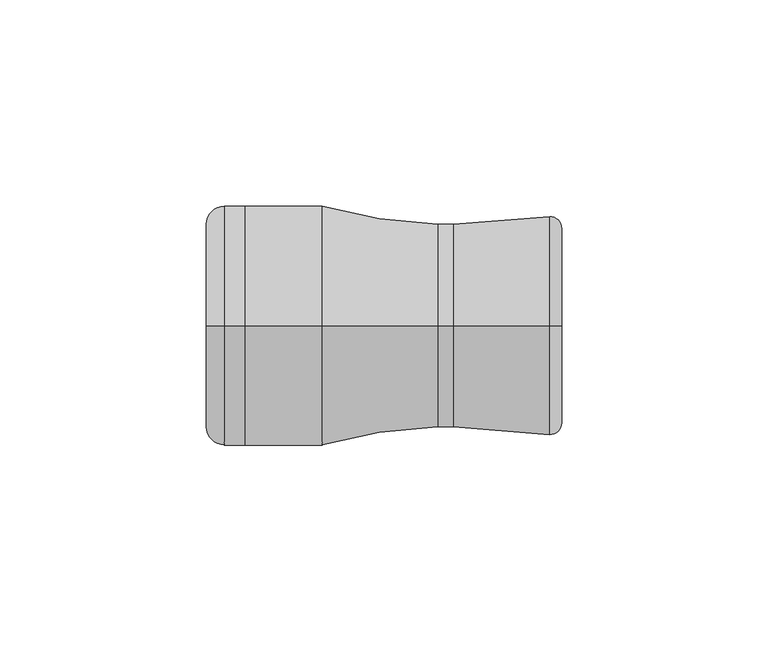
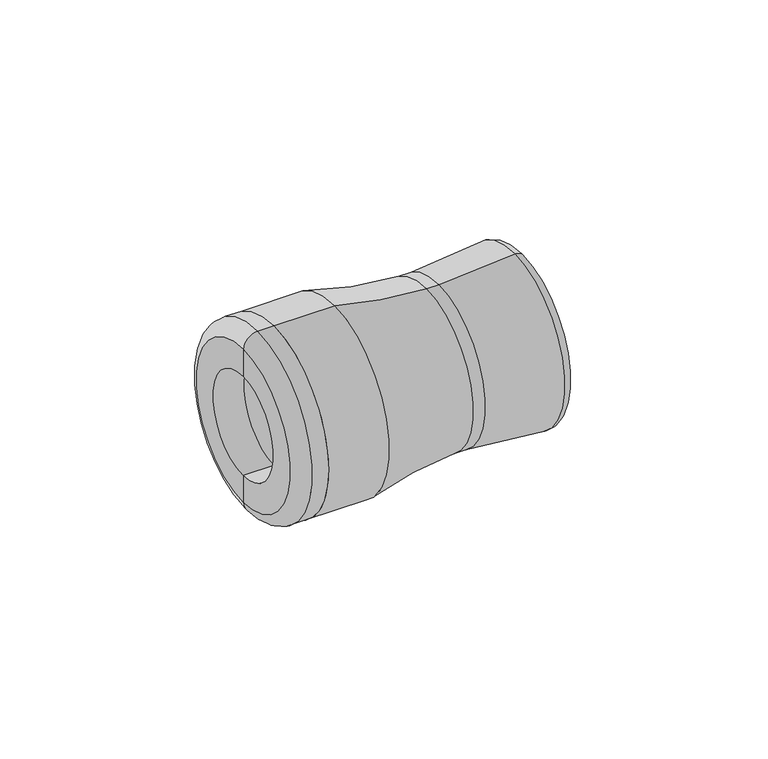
"""IFC4 building model written with IfcOpenShell, lengths in millimetres: pipe fitting geometry, Plumbing_Pipe-Fittings_Plasson_Female-Adaptor-with-Threaded-G-Brass-Offtake_1073G : Plumbing_Pipe-Fittings_Plasson_Female-Adaptor-with-Threaded-G-Brass-Offtake_1073G."""

from ifc_helpers import new_model, si_unit, point, frame, origin, place, context, project, spatial, polyline, circle_curve, ellipse_curve, trimmed, source, transform, mapped, element, save
from ifc_brep_helpers import plane_surface, cylinder_surface, revolved_surface, advanced_brep


def pipe_fitting_30391b72(model_context):
    return source(origin(), model_context, "Body", "AdvancedBrep", [
        advanced_brep(
        [(0.8817136, 0.0, -14.05), (0.8817136, 0.0, 14.05), (0.8817136, 0.0, 12.05), (0.8817136, 0.0, -12.05), (-11.1182864, 0.0, -14.05), (-11.1182864, 0.0, 14.05), (-11.1182864, 0.0, -12.05), (-11.1182864, 0.0, 12.05)],
        [
            (0, 1, circle_curve(frame((0.8817136, 0.0, 0.0), z_axis=(1.0, 0.0, 0.0), x_axis=(0.0, 0.0, 1.0)), 14.05)),
            (1, 2),
            (2, 3, circle_curve(frame((0.8817136, 0.0, 0.0), z_axis=(-1.0, 0.0, 0.0), x_axis=(0.0, 0.0, 1.0)), 12.05)),
            (3, 0),
            (1, 0, circle_curve(frame((0.8817136, 0.0, 0.0), z_axis=(1.0, 0.0, 0.0), x_axis=(0.0, 0.0, 1.0)), 14.05)),
            (3, 2, circle_curve(frame((0.8817136, 0.0, 0.0), z_axis=(-1.0, 0.0, 0.0), x_axis=(0.0, 0.0, 1.0)), 12.05)),
            (4, 5, circle_curve(frame((-11.1182864, 0.0, 0.0), z_axis=(1.0, 0.0, 0.0), x_axis=(0.0, 0.0, 1.0)), 14.05)),
            (5, 1),
            (0, 4),
            (5, 4, circle_curve(frame((-11.1182864, 0.0, 0.0), z_axis=(1.0, 0.0, 0.0), x_axis=(0.0, 0.0, 1.0)), 14.05)),
            (6, 7, circle_curve(frame((-11.1182864, 0.0, 0.0), z_axis=(1.0, 0.0, 0.0), x_axis=(0.0, 0.0, 1.0)), 12.05)),
            (7, 5),
            (4, 6),
            (7, 6, circle_curve(frame((-11.1182864, 0.0, 0.0), z_axis=(1.0, 0.0, 0.0), x_axis=(0.0, 0.0, 1.0)), 12.05)),
            (2, 7),
            (6, 3),
        ],
        [
            plane_surface(frame((0.8817136, 0.0, 0.0), z_axis=(1.0, 0.0, 0.0), x_axis=(0.0, 0.0, 1.0))),
            cylinder_surface(frame((-4.784953, 0.0, 0.0), z_axis=(-1.0, 0.0, 0.0), x_axis=(0.0, 0.0, 1.0)), 14.05),
            plane_surface(frame((-11.1182864, 0.0, 0.0), z_axis=(-1.0, 0.0, 0.0), x_axis=(0.0, 0.0, 1.0))),
            revolved_surface(polyline([(-11.1182864, 0.0, 12.05), (0.8817136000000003, 0.0, 12.05)]), (-4.784953, 0.0, 0.0), (-1.0, 0.0, 0.0)),
        ],
        [
            (0, [[1, 2, 3, 4]]),
            (0, [[5, -4, 6, -2]]),
            (1, [[7, 8, -1, 9]]),
            (1, [[10, -9, -5, -8]]),
            (2, [[11, 12, -7, 13]]),
            (2, [[14, -13, -10, -12]]),
            (3, [[-3, 15, -11, 16]]),
            (3, [[-6, -16, -14, -15]]),
        ],
    ),
        advanced_brep(
        [(-75.784953, 0.0, -16.0), (-75.784953, 0.0, 16.0), (-85.1182864, 0.0, 16.0), (-85.1182864, 0.0, -16.0), (-85.1182864, 0.0, 24.6666667), (-85.1182864, 0.0, -24.6666667), (-80.784953, 0.0, 29.0), (-80.784953, 0.0, -29.0), (-75.784953, 0.0, 29.0), (-75.784953, 0.0, -29.0)],
        [
            (0, 1, circle_curve(frame((-75.784953, 0.0, 0.0), z_axis=(1.0, 0.0, 0.0), x_axis=(0.0, 0.0, 1.0)), 16.0)),
            (1, 2),
            (2, 3, circle_curve(frame((-85.1182864, 0.0, 0.0), z_axis=(-1.0, 0.0, 0.0), x_axis=(0.0, 0.0, 1.0)), 16.0)),
            (3, 0),
            (1, 0, circle_curve(frame((-75.784953, 0.0, 0.0), z_axis=(1.0, 0.0, 0.0), x_axis=(0.0, 0.0, 1.0)), 16.0)),
            (3, 2, circle_curve(frame((-85.1182864, 0.0, 0.0), z_axis=(-1.0, 0.0, 0.0), x_axis=(0.0, 0.0, 1.0)), 16.0)),
            (2, 4),
            (4, 5, circle_curve(frame((-85.1182864, 0.0, 0.0), z_axis=(-1.0, 0.0, 0.0), x_axis=(0.0, 0.0, 1.0)), 24.6666667)),
            (5, 3),
            (5, 4, circle_curve(frame((-85.1182864, 0.0, 0.0), z_axis=(-1.0, 0.0, 0.0), x_axis=(0.0, 0.0, 1.0)), 24.6666667)),
            (4, 6, circle_curve(frame((-80.784953, 0.0, 24.6666667), z_axis=(0.0, 1.0, 0.0), x_axis=(-1.0, 0.0, 0.0)), 4.3333333)),
            (6, 7, circle_curve(frame((-80.784953, 0.0, 0.0), z_axis=(-1.0, 0.0, 0.0), x_axis=(0.0, 0.0, 1.0)), 29.0)),
            (7, 5, circle_curve(frame((-80.784953, 0.0, -24.6666667), z_axis=(0.0, 1.0, 0.0), x_axis=(-1.0, 0.0, 0.0)), 4.3333333)),
            (7, 6, circle_curve(frame((-80.784953, 0.0, 0.0), z_axis=(-1.0, 0.0, 0.0), x_axis=(0.0, 0.0, 1.0)), 29.0)),
            (6, 8),
            (8, 9, circle_curve(frame((-75.784953, 0.0, 0.0), z_axis=(-1.0, 0.0, 0.0), x_axis=(0.0, 0.0, 1.0)), 29.0)),
            (9, 7),
            (9, 8, circle_curve(frame((-75.784953, 0.0, 0.0), z_axis=(-1.0, 0.0, 0.0), x_axis=(0.0, 0.0, 1.0)), 29.0)),
            (8, 1),
            (0, 9),
        ],
        [
            revolved_surface(polyline([(-85.1182864, 0.0, 16.0), (-75.784953, 0.0, 16.0)]), (-61.5654501, 0.0, 0.0), (-1.0, 0.0, 0.0)),
            plane_surface(frame((-85.1182864, 0.0, 0.0), z_axis=(-1.0, 0.0, 0.0), x_axis=(0.0, 0.0, 1.0))),
            revolved_surface(trimmed(ellipse_curve(frame((-80.784953, 0.0, 24.6666667), z_axis=(0.0, -1.0, 0.0), x_axis=(-1.0, 0.0, 0.0)), 4.3333333, 4.3333333), [point((-80.784953, 0.0, 29.0))], [point((-85.1182864, 0.0, 24.6666667))], True, "CARTESIAN"), (-61.5654501, 0.0, 0.0), (-1.0, 0.0, 0.0)),
            cylinder_surface(frame((-61.5654501, 0.0, 0.0), z_axis=(-1.0, 0.0, 0.0), x_axis=(0.0, 0.0, 1.0)), 29.0),
            plane_surface(frame((-75.784953, 0.0, 0.0), z_axis=(1.0, 0.0, 0.0), x_axis=(0.0, 0.0, 1.0))),
        ],
        [
            (0, [[1, 2, 3, 4]]),
            (0, [[5, -4, 6, -2]]),
            (1, [[-3, 7, 8, 9]]),
            (1, [[-6, -9, 10, -7]]),
            (2, [[-8, 11, 12, 13]]),
            (2, [[-10, -13, 14, -11]]),
            (3, [[-12, 15, 16, 17]]),
            (3, [[-14, -17, 18, -15]]),
            (4, [[-16, 19, -1, 20]]),
            (4, [[-18, -20, -5, -19]]),
        ],
    ),
        advanced_brep(
        [(-57.1182864, 0.0, -29.0), (-57.1182864, 0.0, 29.0), (-29.1182864, 0.0, 24.6666667), (-29.1182864, 0.0, -24.6666667), (-25.3682864, 0.0, 24.6666667), (-25.3682864, 0.0, -24.6666667), (-25.3682864, 0.0, -8.525), (-25.3682864, 0.0, 8.525), (-29.1182864, 0.0, 8.525), (-29.1182864, 0.0, -8.525), (-29.1182864, 0.0, 16.0), (-29.1182864, 0.0, -16.0), (-75.784953, 0.0, 16.0), (-75.784953, 0.0, -16.0), (-75.784953, 0.0, 29.0), (-75.784953, 0.0, -29.0), (0.8817136, 0.0, -23.6666667), (0.8817136, 0.0, 23.6666667), (0.8817136, 0.0, 14.05), (0.8817136, 0.0, -14.05), (-11.1182864, 0.0, 14.05), (-11.1182864, 0.0, -14.05), (-2.0071753, 0.0, -26.5555556), (-2.0071753, 0.0, 26.5555556)],
        [
            (0, 1, circle_curve(frame((-57.1182864, 0.0, 0.0), z_axis=(1.0, 0.0, 0.0), x_axis=(0.0, 0.0, 1.0)), 29.0)),
            (1, 2, circle_curve(frame((-25.0104841, 0.0, 143.8375941), z_axis=(0.0, -1.0, 0.0), x_axis=(-1.0, 0.0, 0.0)), 119.2417041)),
            (2, 3, circle_curve(frame((-29.1182864, 0.0, 0.0), z_axis=(-1.0, 0.0, 0.0), x_axis=(0.0, 0.0, 1.0)), 24.6666667)),
            (3, 0, circle_curve(frame((-25.0104841, 0.0, -143.8375941), z_axis=(0.0, -1.0, 0.0), x_axis=(-1.0, 0.0, 0.0)), 119.2417041)),
            (1, 0, circle_curve(frame((-57.1182864, 0.0, 0.0), z_axis=(1.0, 0.0, 0.0), x_axis=(0.0, 0.0, 1.0)), 29.0)),
            (3, 2, circle_curve(frame((-29.1182864, 0.0, 0.0), z_axis=(-1.0, 0.0, 0.0), x_axis=(0.0, 0.0, 1.0)), 24.6666667)),
            (2, 4),
            (4, 5, circle_curve(frame((-25.3682864, 0.0, 0.0), z_axis=(-1.0, 0.0, 0.0), x_axis=(0.0, 0.0, 1.0)), 24.6666667)),
            (5, 3),
            (5, 4, circle_curve(frame((-25.3682864, 0.0, 0.0), z_axis=(-1.0, 0.0, 0.0), x_axis=(0.0, 0.0, 1.0)), 24.6666667)),
            (6, 7, circle_curve(frame((-25.3682864, 0.0, 0.0), z_axis=(1.0, 0.0, 0.0), x_axis=(0.0, 0.0, 1.0)), 8.525)),
            (7, 8),
            (8, 9, circle_curve(frame((-29.1182864, 0.0, 0.0), z_axis=(-1.0, 0.0, 0.0), x_axis=(0.0, 0.0, 1.0)), 8.525)),
            (9, 6),
            (7, 6, circle_curve(frame((-25.3682864, 0.0, 0.0), z_axis=(1.0, 0.0, 0.0), x_axis=(0.0, 0.0, 1.0)), 8.525)),
            (9, 8, circle_curve(frame((-29.1182864, 0.0, 0.0), z_axis=(-1.0, 0.0, 0.0), x_axis=(0.0, 0.0, 1.0)), 8.525)),
            (8, 10),
            (10, 11, circle_curve(frame((-29.1182864, 0.0, 0.0), z_axis=(-1.0, 0.0, 0.0), x_axis=(0.0, 0.0, 1.0)), 16.0)),
            (11, 9),
            (11, 10, circle_curve(frame((-29.1182864, 0.0, 0.0), z_axis=(-1.0, 0.0, 0.0), x_axis=(0.0, 0.0, 1.0)), 16.0)),
            (10, 12),
            (12, 13, circle_curve(frame((-75.784953, 0.0, 0.0), z_axis=(-1.0, 0.0, 0.0), x_axis=(0.0, 0.0, 1.0)), 16.0)),
            (13, 11),
            (13, 12, circle_curve(frame((-75.784953, 0.0, 0.0), z_axis=(-1.0, 0.0, 0.0), x_axis=(0.0, 0.0, 1.0)), 16.0)),
            (12, 14),
            (14, 15, circle_curve(frame((-75.784953, 0.0, 0.0), z_axis=(-1.0, 0.0, 0.0), x_axis=(0.0, 0.0, 1.0)), 29.0)),
            (15, 13),
            (15, 14, circle_curve(frame((-75.784953, 0.0, 0.0), z_axis=(-1.0, 0.0, 0.0), x_axis=(0.0, 0.0, 1.0)), 29.0)),
            (14, 1),
            (0, 15),
            (16, 17, circle_curve(frame((0.8817136, 0.0, 0.0), z_axis=(1.0, 0.0, 0.0), x_axis=(0.0, 0.0, 1.0)), 23.6666667)),
            (17, 18),
            (18, 19, circle_curve(frame((0.8817136, 0.0, 0.0), z_axis=(-1.0, 0.0, 0.0), x_axis=(0.0, 0.0, 1.0)), 14.05)),
            (19, 16),
            (17, 16, circle_curve(frame((0.8817136, 0.0, 0.0), z_axis=(1.0, 0.0, 0.0), x_axis=(0.0, 0.0, 1.0)), 23.6666667)),
            (19, 18, circle_curve(frame((0.8817136, 0.0, 0.0), z_axis=(-1.0, 0.0, 0.0), x_axis=(0.0, 0.0, 1.0)), 14.05)),
            (18, 20),
            (20, 21, circle_curve(frame((-11.1182864, 0.0, 0.0), z_axis=(-1.0, 0.0, 0.0), x_axis=(0.0, 0.0, 1.0)), 14.05)),
            (21, 19),
            (21, 20, circle_curve(frame((-11.1182864, 0.0, 0.0), z_axis=(-1.0, 0.0, 0.0), x_axis=(0.0, 0.0, 1.0)), 14.05)),
            (20, 7),
            (6, 21),
            (22, 23, circle_curve(frame((-2.0071753, 0.0, 0.0), z_axis=(1.0, 0.0, 0.0), x_axis=(0.0, 0.0, 1.0)), 26.5555556)),
            (23, 17, circle_curve(frame((-2.0071753, 0.0, 23.6666667), z_axis=(0.0, 1.0, 0.0), x_axis=(-1.0, 0.0, 0.0)), 2.8888889)),
            (16, 22, circle_curve(frame((-2.0071753, 0.0, -23.6666667), z_axis=(0.0, 1.0, 0.0), x_axis=(-1.0, 0.0, 0.0)), 2.8888889)),
            (23, 22, circle_curve(frame((-2.0071753, 0.0, 0.0), z_axis=(1.0, 0.0, 0.0), x_axis=(0.0, 0.0, 1.0)), 26.5555556)),
            (4, 23),
            (22, 5),
        ],
        [
            revolved_surface(trimmed(ellipse_curve(frame((-25.0104841, 0.0, 143.8375941), z_axis=(0.0, 1.0, 0.0), x_axis=(-1.0, 0.0, 0.0)), 119.2417041, 119.2417041), [point((-29.1182864, 0.0, 24.6666667))], [point((-57.1182864, 0.0, 29.0))], True, "CARTESIAN"), (-57.1182864, 0.0, 0.0), (-1.0, 0.0, 0.0)),
            cylinder_surface(frame((-57.1182864, 0.0, 0.0), z_axis=(-1.0, 0.0, 0.0), x_axis=(0.0, 0.0, 1.0)), 24.6666667),
            revolved_surface(polyline([(-29.1182864, 0.0, 8.525), (-25.3682864, 0.0, 8.525)]), (-57.1182864, 0.0, 0.0), (-1.0, 0.0, 0.0)),
            plane_surface(frame((-29.1182864, 0.0, 0.0), z_axis=(-1.0, 0.0, 0.0), x_axis=(0.0, 0.0, 1.0))),
            revolved_surface(polyline([(-75.784953, 0.0, 16.0), (-29.1182864, 0.0, 16.0)]), (-57.1182864, 0.0, 0.0), (-1.0, 0.0, 0.0)),
            plane_surface(frame((-75.784953, 0.0, 0.0), z_axis=(-1.0, 0.0, 0.0), x_axis=(0.0, 0.0, 1.0))),
            cylinder_surface(frame((-57.1182864, 0.0, 0.0), z_axis=(-1.0, 0.0, 0.0), x_axis=(0.0, 0.0, 1.0)), 29.0),
            plane_surface(frame((0.8817136, 0.0, 0.0), z_axis=(1.0, 0.0, 0.0), x_axis=(0.0, 0.0, 1.0))),
            revolved_surface(polyline([(-11.118286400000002, 0.0, 14.05), (0.8817135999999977, 0.0, 14.05)]), (-57.1182864, 0.0, 0.0), (-1.0, 0.0, 0.0)),
            revolved_surface(polyline([(-25.3682864, 0.0, 8.525), (-11.1182864, 0.0, 14.05)]), (-57.1182864, 0.0, 0.0), (-1.0, 0.0, 0.0)),
            revolved_surface(trimmed(ellipse_curve(frame((-2.0071753, 0.0, 23.6666667), z_axis=(0.0, -1.0, 0.0), x_axis=(-1.0, 0.0, 0.0)), 2.8888889, 2.8888889), [point((0.8817136, 0.0, 23.6666667))], [point((-2.0071753, 0.0, 26.5555556))], True, "CARTESIAN"), (-57.1182864, 0.0, 0.0), (-1.0, 0.0, 0.0)),
            revolved_surface(polyline([(-2.0071753, 0.0, 26.5555556), (-25.3682864, 0.0, 24.6666667)]), (-57.1182864, 0.0, 0.0), (-1.0, 0.0, 0.0)),
        ],
        [
            (0, [[1, 2, 3, 4]]),
            (0, [[5, -4, 6, -2]]),
            (1, [[-3, 7, 8, 9]]),
            (1, [[-6, -9, 10, -7]]),
            (2, [[11, 12, 13, 14]]),
            (2, [[15, -14, 16, -12]]),
            (3, [[-13, 17, 18, 19]]),
            (3, [[-16, -19, 20, -17]]),
            (4, [[-18, 21, 22, 23]]),
            (4, [[-20, -23, 24, -21]]),
            (5, [[-22, 25, 26, 27]]),
            (5, [[-24, -27, 28, -25]]),
            (6, [[-26, 29, -1, 30]]),
            (6, [[-28, -30, -5, -29]]),
            (7, [[31, 32, 33, 34]]),
            (7, [[35, -34, 36, -32]]),
            (8, [[-33, 37, 38, 39]]),
            (8, [[-36, -39, 40, -37]]),
            (9, [[-38, 41, -11, 42]]),
            (9, [[-40, -42, -15, -41]]),
            (10, [[43, 44, -31, 45]]),
            (10, [[46, -45, -35, -44]]),
            (11, [[-8, 47, -43, 48]]),
            (11, [[-10, -48, -46, -47]]),
        ],
    ),
    ])


if __name__ == "__main__":
    model = new_model("IFC4")
    model_context = context("Model", 3, world=origin())
    ifc_project = project(units=[si_unit("LENGTHUNIT", "METRE", prefix="MILLI")], contexts=[model_context])
    site = spatial("IfcSite", under=ifc_project)
    building = spatial("IfcBuilding", under=site)
    placement = place(None, origin())
    pipe_fitting_shape = pipe_fitting_30391b72(model_context)
    element("IfcPipeFitting", 1, ObjectType="Plumbing_Pipe-Fittings_Plasson_Female-Adaptor-with-Threaded-G-Brass-Offtake_1073G : Plumbing_Pipe-Fittings_Plasson_Female-Adaptor-with-Threaded-G-Brass-Offtake_1073G", at=placement, inside=building, context=model_context, shape_type="MappedRepresentation", body=[
        mapped(pipe_fitting_shape, transform((0.0, 0.0, 0.0), x_axis=(1.0, 0.0, 0.0), y_axis=(0.0, 1.0, 0.0), z_axis=(0.0, 0.0, 1.0))),
    ])
    save(model, "model.ifc")
